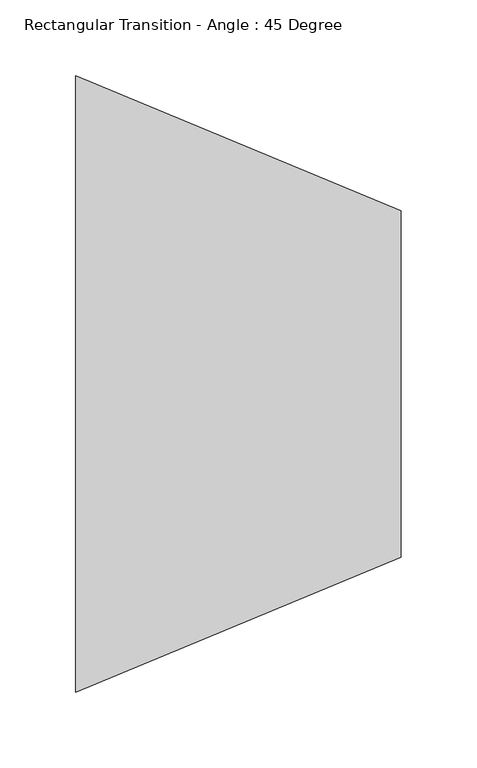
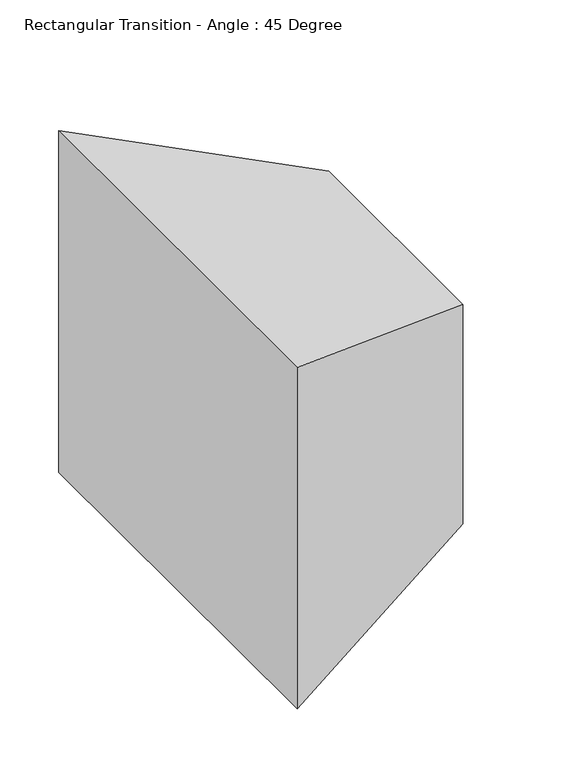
"""IFC4 building model written with IfcOpenShell, lengths in millimetres: duct fitting geometry, Rectangular Transition - Angle : 45 Degree."""

from ifc_helpers import new_model, si_unit, origin, place, context, project, spatial, faceted_brep, source, transform, mapped, element, save


def rectangular_transition_angle_45_degree_902e052a(model_context):
    return source(origin(), model_context, "Body", "Brep", [
        faceted_brep([(214.6235857, 114.3, 114.3), (214.6235857, -114.3, 114.3), (214.6235857, -114.3, -114.3), (214.6235857, 114.3, -114.3), (0.0, 203.2, 177.8), (0.0, 203.2, -177.8), (0.0, -203.2, -177.8), (0.0, -203.2, 177.8)], [[[0, 1, 2, 3]], [[4, 5, 6, 7]], [[4, 0, 3, 5]], [[5, 3, 2, 6]], [[6, 2, 1, 7]], [[7, 1, 0, 4]]]),
    ])


if __name__ == "__main__":
    model = new_model("IFC4")
    model_context = context("Model", 3, world=origin())
    ifc_project = project(units=[si_unit("LENGTHUNIT", "METRE", prefix="MILLI")], contexts=[model_context])
    site = spatial("IfcSite", under=ifc_project)
    building = spatial("IfcBuilding", under=site)
    placement = place(None, origin())
    rectangular_transition_angle_45_degree_shape = rectangular_transition_angle_45_degree_902e052a(model_context)
    element("IfcDuctFitting", 1, ObjectType="Rectangular Transition - Angle : 45 Degree", at=placement, inside=building, context=model_context, shape_type="MappedRepresentation", body=[
        mapped(rectangular_transition_angle_45_degree_shape, transform((0.0, 0.0, 0.0), x_axis=(1.0, 0.0, 0.0), y_axis=(0.0, 1.0, 0.0), z_axis=(0.0, 0.0, 1.0))),
    ])
    save(model, "model.ifc")
